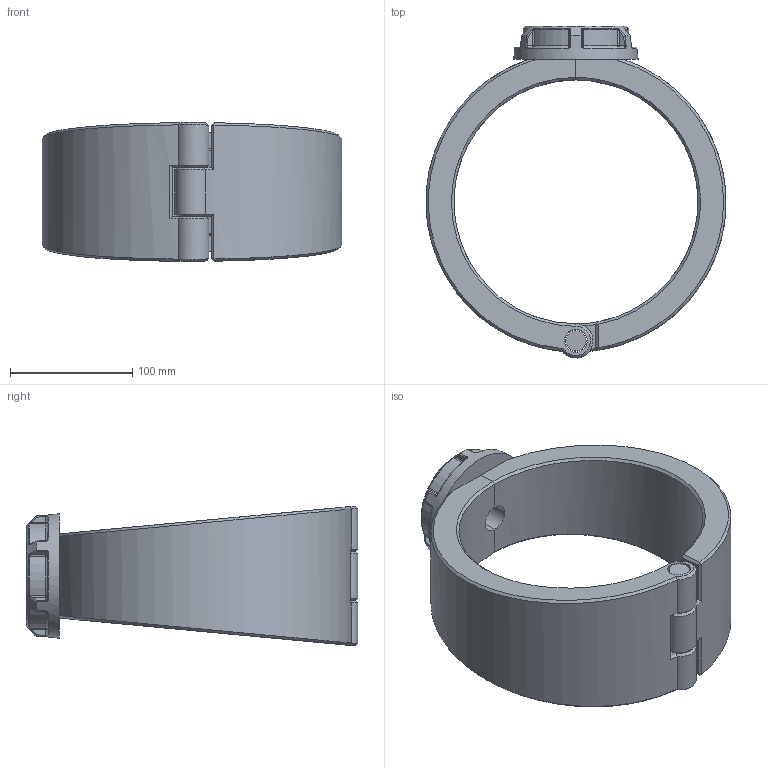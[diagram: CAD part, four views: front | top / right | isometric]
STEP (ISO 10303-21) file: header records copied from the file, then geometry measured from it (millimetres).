
FILE_DESCRIPTION(/* description */ ('Plassadle Threaded 200x1 1/2'''''),/* implementation_level */ '2;1');
FILE_NAME(/* name */ 'C:\Dropbox\KIMPROJECTS-Inventor 2019\99-16-3568-Processing\Mechanical Fittings\16300\stp\163000200015.stp',/* time_stamp */ '2024-08-28T10:32:20+02:00',/* author */ ('comp2'),/* organization */ (''),/* preprocessor_version */ 'ST-DEVELOPER v17.2',/* originating_system */ 'Autodesk Inventor 2019',/* authorisation */ '');
FILE_SCHEMA (('AUTOMOTIVE_DESIGN { 1 0 10303 214 3 1 1 }'));
Length unit declared in the file: millimetre
Products named in the file (1): 163000200015
Bounding box: 245.88 x 271.97 x 114.62 mm (x, y, z)
Volume: 1565185.9 mm3; surface area: 202028 mm2
Topology: 4 solids, 4 shells, 203 faces, 486 edges, 293 vertices
Faces by surface type: bspline 58, plane 53, cylinder 47, torus 18, cone 15, sphere 12
Full cylindrical faces by diameter (mm): 16.72 x1, 18.72 x3, 22.422 x1, 38.118 x1, 44.845 x1, 67.267 x1
Entity records: 8292 total; most frequent: CARTESIAN_POINT 3945, ORIENTED_EDGE 972, DIRECTION 781, EDGE_CURVE 486, AXIS2_PLACEMENT_3D 330, VERTEX_POINT 293, EDGE_LOOP 213, FACE_OUTER_BOUND 203
